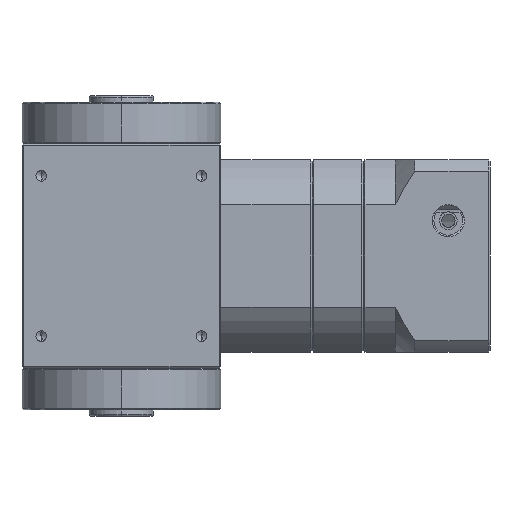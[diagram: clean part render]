
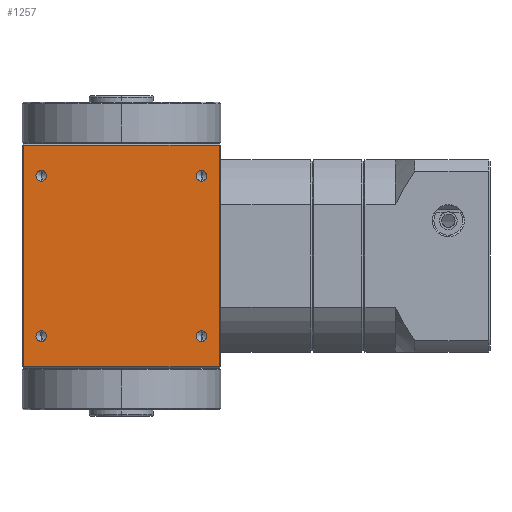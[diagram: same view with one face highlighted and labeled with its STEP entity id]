
A CAD part, left-side view. The second image highlights one B-rep face of the part: STEP entity #1257.
In plain terms, the highlighted planar face has unit normal (-1, 0, 0).
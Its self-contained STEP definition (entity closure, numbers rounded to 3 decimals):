
#29 = VERTEX_POINT ( 'NONE', #2669 ) ;
#33 = VERTEX_POINT ( 'NONE', #2665 ) ;
#46 = VERTEX_POINT ( 'NONE', #2652 ) ;
#48 = VERTEX_POINT ( 'NONE', #2650 ) ;
#112 = VERTEX_POINT ( 'NONE', #2940 ) ;
#118 = VERTEX_POINT ( 'NONE', #2915 ) ;
#146 = VERTEX_POINT ( 'NONE', #6204 ) ;
#163 = VERTEX_POINT ( 'NONE', #6188 ) ;
#196 = VERTEX_POINT ( 'NONE', #6224 ) ;
#251 = VERTEX_POINT ( 'NONE', #3077 ) ;
#256 = VERTEX_POINT ( 'NONE', #3170 ) ;
#268 = VERTEX_POINT ( 'NONE', #3054 ) ;
#672 = ORIENTED_EDGE ( 'NONE', *, *, #2984, .F. ) ;
#674 = ORIENTED_EDGE ( 'NONE', *, *, #5349, .F. ) ;
#675 = ORIENTED_EDGE ( 'NONE', *, *, #5376, .F. ) ;
#676 = ORIENTED_EDGE ( 'NONE', *, *, #5329, .F. ) ;
#677 = ORIENTED_EDGE ( 'NONE', *, *, #3130, .F. ) ;
#678 = ORIENTED_EDGE ( 'NONE', *, *, #3098, .F. ) ;
#679 = ORIENTED_EDGE ( 'NONE', *, *, #5216, .T. ) ;
#680 = ORIENTED_EDGE ( 'NONE', *, *, #5335, .F. ) ;
#681 = ORIENTED_EDGE ( 'NONE', *, *, #3115, .F. ) ;
#682 = ORIENTED_EDGE ( 'NONE', *, *, #3136, .T. ) ;
#686 = ORIENTED_EDGE ( 'NONE', *, *, #5220, .T. ) ;
#720 = ORIENTED_EDGE ( 'NONE', *, *, #5385, .T. ) ;
#847 = EDGE_LOOP ( 'NONE', ( #679, #682, #686, #720 ) ) ;
#951 = EDGE_LOOP ( 'NONE', ( #672, #675 ) ) ;
#956 = EDGE_LOOP ( 'NONE', ( #677, #676 ) ) ;
#962 = EDGE_LOOP ( 'NONE', ( #681, #674 ) ) ;
#1066 = EDGE_LOOP ( 'NONE', ( #678, #680 ) ) ;
#1257 = ADVANCED_FACE ( 'NONE', ( #4836, #4839, #4835, #4834, #4837 ), #1692, .F. ) ;
#1688 = DIRECTION ( 'NONE',  ( 1., 0., 0. ) ) ;
#1692 = PLANE ( 'NONE',  #3291 ) ;
#1694 = CARTESIAN_POINT ( 'NONE',  ( -31., -31., 35. ) ) ;
#1696 = DIRECTION ( 'NONE',  ( 0., 0., -1. ) ) ;
#2650 = CARTESIAN_POINT ( 'NONE',  ( -31., 30.5, -34.5 ) ) ;
#2652 = CARTESIAN_POINT ( 'NONE',  ( -31., -25., -23.35 ) ) ;
#2665 = CARTESIAN_POINT ( 'NONE',  ( -31., -30.5, -34.5 ) ) ;
#2669 = CARTESIAN_POINT ( 'NONE',  ( -31., 25., 26.65 ) ) ;
#2915 = CARTESIAN_POINT ( 'NONE',  ( -31., -25., 26.65 ) ) ;
#2940 = CARTESIAN_POINT ( 'NONE',  ( -31., 25., -23.35 ) ) ;
#2984 = EDGE_CURVE ( 'NONE', #112, #268, #6768, .T. ) ;
#3054 = CARTESIAN_POINT ( 'NONE',  ( -31., 25., -26.65 ) ) ;
#3077 = CARTESIAN_POINT ( 'NONE',  ( -31., -30.5, 34.5 ) ) ;
#3098 = EDGE_CURVE ( 'NONE', #118, #163, #6843, .T. ) ;
#3115 = EDGE_CURVE ( 'NONE', #29, #196, #6848, .T. ) ;
#3130 = EDGE_CURVE ( 'NONE', #46, #146, #6866, .T. ) ;
#3136 = EDGE_CURVE ( 'NONE', #33, #251, #6862, .T. ) ;
#3170 = CARTESIAN_POINT ( 'NONE',  ( -31., 30.5, 34.5 ) ) ;
#3291 = AXIS2_PLACEMENT_3D ( 'NONE', #1694, #1688, #1696 ) ;
#3608 = AXIS2_PLACEMENT_3D ( 'NONE', #8952, #8953, #8954 ) ;
#3627 = AXIS2_PLACEMENT_3D ( 'NONE', #9140, #9141, #9142 ) ;
#3635 = AXIS2_PLACEMENT_3D ( 'NONE', #9176, #9177, #9178 ) ;
#3637 = AXIS2_PLACEMENT_3D ( 'NONE', #9229, #9230, #9231 ) ;
#3708 = AXIS2_PLACEMENT_3D ( 'NONE', #8204, #8205, #8206 ) ;
#3710 = AXIS2_PLACEMENT_3D ( 'NONE', #8247, #8248, #8249 ) ;
#3714 = AXIS2_PLACEMENT_3D ( 'NONE', #8323, #8324, #8325 ) ;
#3721 = AXIS2_PLACEMENT_3D ( 'NONE', #8390, #8391, #8392 ) ;
#4834 = FACE_BOUND ( 'NONE', #956, .T. ) ;
#4835 = FACE_BOUND ( 'NONE', #1066, .T. ) ;
#4836 = FACE_BOUND ( 'NONE', #951, .T. ) ;
#4837 = FACE_OUTER_BOUND ( 'NONE', #847, .T. ) ;
#4839 = FACE_BOUND ( 'NONE', #962, .T. ) ;
#5216 = EDGE_CURVE ( 'NONE', #48, #33, #7010, .T. ) ;
#5220 = EDGE_CURVE ( 'NONE', #251, #256, #7016, .T. ) ;
#5329 = EDGE_CURVE ( 'NONE', #146, #46, #7172, .T. ) ;
#5335 = EDGE_CURVE ( 'NONE', #163, #118, #7179, .T. ) ;
#5349 = EDGE_CURVE ( 'NONE', #196, #29, #7200, .T. ) ;
#5376 = EDGE_CURVE ( 'NONE', #268, #112, #7238, .T. ) ;
#5385 = EDGE_CURVE ( 'NONE', #256, #48, #7253, .T. ) ;
#6188 = CARTESIAN_POINT ( 'NONE',  ( -31., -25., 23.35 ) ) ;
#6204 = CARTESIAN_POINT ( 'NONE',  ( -31., -25., -26.65 ) ) ;
#6224 = CARTESIAN_POINT ( 'NONE',  ( -31., 25., 23.35 ) ) ;
#6768 = CIRCLE ( 'NONE', #3608, 1.65 ) ;
#6843 = CIRCLE ( 'NONE', #3627, 1.65 ) ;
#6848 = CIRCLE ( 'NONE', #3635, 1.65 ) ;
#6862 = LINE ( 'NONE', #9226, #6874 ) ;
#6866 = CIRCLE ( 'NONE', #3637, 1.65 ) ;
#6874 = VECTOR ( 'NONE', #9237, 1000. ) ;
#7010 = LINE ( 'NONE', #7735, #7011 ) ;
#7011 = VECTOR ( 'NONE', #7736, 1000. ) ;
#7016 = LINE ( 'NONE', #7695, #7019 ) ;
#7019 = VECTOR ( 'NONE', #7704, 1000. ) ;
#7172 = CIRCLE ( 'NONE', #3708, 1.65 ) ;
#7179 = CIRCLE ( 'NONE', #3710, 1.65 ) ;
#7200 = CIRCLE ( 'NONE', #3714, 1.65 ) ;
#7238 = CIRCLE ( 'NONE', #3721, 1.65 ) ;
#7253 = LINE ( 'NONE', #8412, #7256 ) ;
#7256 = VECTOR ( 'NONE', #8413, 1000. ) ;
#7695 = CARTESIAN_POINT ( 'NONE',  ( -31., 31., 34.5 ) ) ;
#7704 = DIRECTION ( 'NONE',  ( 0., 1., 0. ) ) ;
#7735 = CARTESIAN_POINT ( 'NONE',  ( -31., -31., -34.5 ) ) ;
#7736 = DIRECTION ( 'NONE',  ( 0., -1., 0. ) ) ;
#8204 = CARTESIAN_POINT ( 'NONE',  ( -31., -25., -25. ) ) ;
#8205 = DIRECTION ( 'NONE',  ( -1., 0., 0. ) ) ;
#8206 = DIRECTION ( 'NONE',  ( 0., 0., 1. ) ) ;
#8247 = CARTESIAN_POINT ( 'NONE',  ( -31., -25., 25. ) ) ;
#8248 = DIRECTION ( 'NONE',  ( -1., 0., 0. ) ) ;
#8249 = DIRECTION ( 'NONE',  ( 0., 0., 1. ) ) ;
#8323 = CARTESIAN_POINT ( 'NONE',  ( -31., 25., 25. ) ) ;
#8324 = DIRECTION ( 'NONE',  ( -1., 0., 0. ) ) ;
#8325 = DIRECTION ( 'NONE',  ( 0., 0., 1. ) ) ;
#8390 = CARTESIAN_POINT ( 'NONE',  ( -31., 25., -25. ) ) ;
#8391 = DIRECTION ( 'NONE',  ( -1., 0., 0. ) ) ;
#8392 = DIRECTION ( 'NONE',  ( 0., 0., 1. ) ) ;
#8412 = CARTESIAN_POINT ( 'NONE',  ( -31., 30.5, 35. ) ) ;
#8413 = DIRECTION ( 'NONE',  ( 0., 0., -1. ) ) ;
#8952 = CARTESIAN_POINT ( 'NONE',  ( -31., 25., -25. ) ) ;
#8953 = DIRECTION ( 'NONE',  ( -1., 0., 0. ) ) ;
#8954 = DIRECTION ( 'NONE',  ( 0., 0., 1. ) ) ;
#9140 = CARTESIAN_POINT ( 'NONE',  ( -31., -25., 25. ) ) ;
#9141 = DIRECTION ( 'NONE',  ( -1., 0., 0. ) ) ;
#9142 = DIRECTION ( 'NONE',  ( 0., 0., 1. ) ) ;
#9176 = CARTESIAN_POINT ( 'NONE',  ( -31., 25., 25. ) ) ;
#9177 = DIRECTION ( 'NONE',  ( -1., 0., 0. ) ) ;
#9178 = DIRECTION ( 'NONE',  ( 0., 0., 1. ) ) ;
#9226 = CARTESIAN_POINT ( 'NONE',  ( -31., -30.5, 35. ) ) ;
#9229 = CARTESIAN_POINT ( 'NONE',  ( -31., -25., -25. ) ) ;
#9230 = DIRECTION ( 'NONE',  ( -1., 0., 0. ) ) ;
#9231 = DIRECTION ( 'NONE',  ( 0., 0., 1. ) ) ;
#9237 = DIRECTION ( 'NONE',  ( 0., 0., 1. ) ) ;
